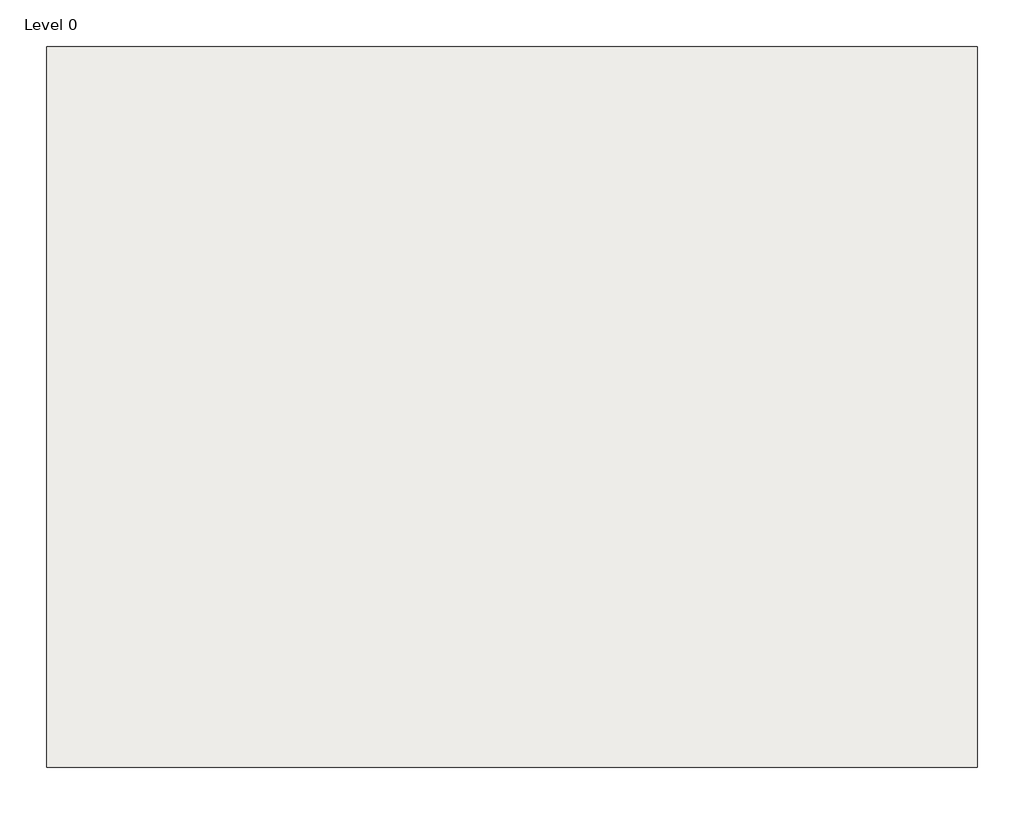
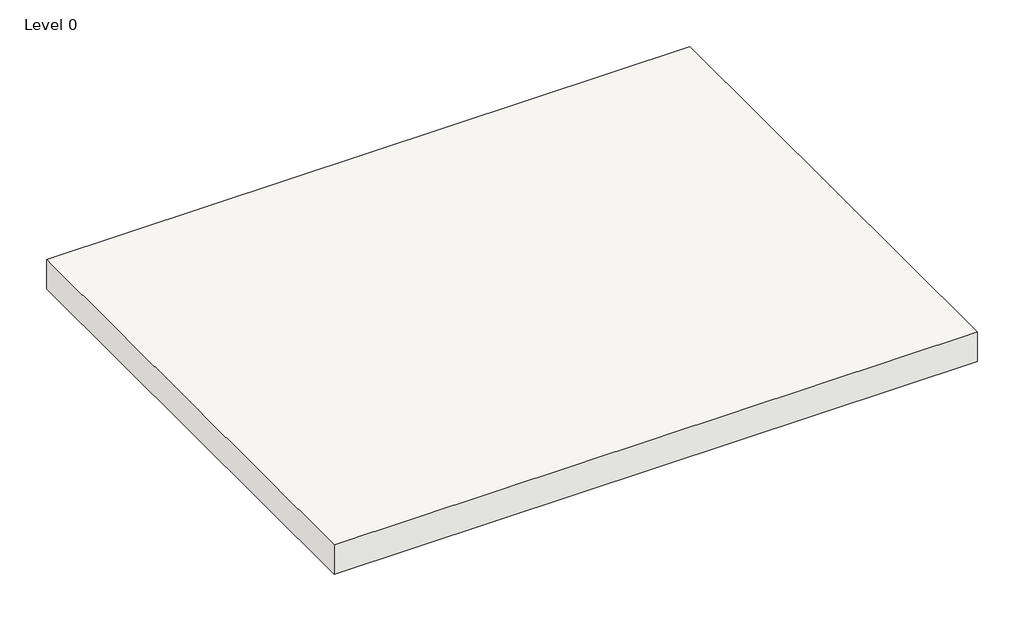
# One storey, part 1 of 2: 1 slab.
"""IFC4 building model written with IfcOpenShell, lengths in millimetres."""

from ifc_helpers import new_model, si_unit, frame, origin, place, context, project, spatial, polyline, outline, extrude, element, save

model = new_model("IFC4")

# Units and contexts
model_context = context("Model", 3, world=origin())
ifc_project = project(units=[si_unit("LENGTHUNIT", "METRE", prefix="MILLI")], contexts=[model_context])

# Site, building, storey
site = spatial("IfcSite", under=ifc_project)
building = spatial("IfcBuilding", under=site)
storey = spatial("IfcBuildingStorey", under=building, Name="Level 0", Elevation=0.0)

# Slab
placement = place(None, origin())
element("IfcSlab", 1, ObjectType="FL_300 mm_Generic", at=placement, inside=storey, context=model_context, shape_type="SweptSolid", body=[
    extrude(outline(polyline([(-98847.8885325, 77369.9753886), (-98847.8885325, 72569.9753886), (-105047.8885325, 72569.9753886), (-105047.8885325, 77369.9753886), (-98847.8885325, 77369.9753886)])), frame((0.0, 0.0, -300.0), z_axis=(0.0, 0.0, 1.0), x_axis=(1.0, 0.0, 0.0)), (0.0, 0.0, 1.0), 300.0),
])

save(model, "model.ifc")
